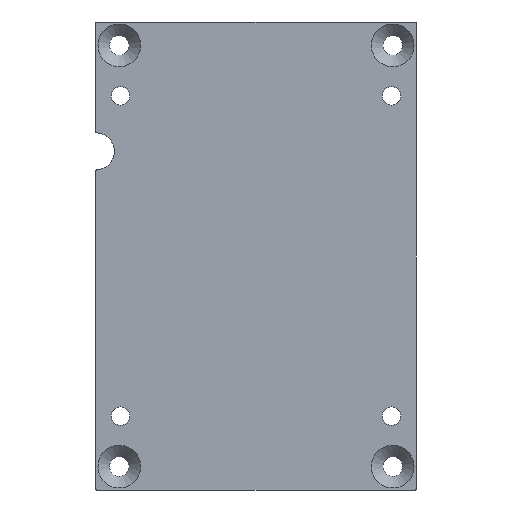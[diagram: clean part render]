
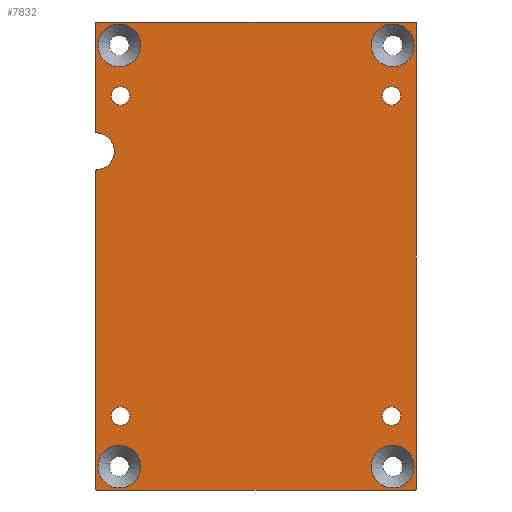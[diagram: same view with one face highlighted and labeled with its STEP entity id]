
A CAD part, front view. The second image highlights one B-rep face of the part: STEP entity #7832.
In plain terms, the highlighted planar face has unit normal (0, -1, 0).
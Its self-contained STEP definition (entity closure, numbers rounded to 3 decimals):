
#3606=PLANE('',#7523);
#3714=CIRCLE('',#7524,3.);
#3715=CIRCLE('',#7525,3.);
#3716=CIRCLE('',#7526,0.1);
#3717=CIRCLE('',#7527,0.1);
#3718=CIRCLE('',#7528,0.1);
#3719=CIRCLE('',#7529,0.1);
#3720=CIRCLE('',#7530,0.1);
#3721=CIRCLE('',#7531,0.1);
#3722=CIRCLE('',#7532,1.5);
#3723=CIRCLE('',#7533,1.5);
#3724=CIRCLE('',#7534,1.5);
#3725=CIRCLE('',#7535,1.5);
#3726=CIRCLE('',#7536,3.47);
#3727=CIRCLE('',#7537,3.47);
#3728=CIRCLE('',#7538,3.47);
#3729=CIRCLE('',#7539,3.47);
#3917=ORIENTED_EDGE('',*,*,#5299,.T.);
#3918=ORIENTED_EDGE('',*,*,#5300,.T.);
#3919=ORIENTED_EDGE('',*,*,#5301,.T.);
#3920=ORIENTED_EDGE('',*,*,#5302,.T.);
#3921=ORIENTED_EDGE('',*,*,#5303,.T.);
#3922=ORIENTED_EDGE('',*,*,#5304,.F.);
#3923=ORIENTED_EDGE('',*,*,#5305,.T.);
#3924=ORIENTED_EDGE('',*,*,#5306,.T.);
#3925=ORIENTED_EDGE('',*,*,#5307,.T.);
#3926=ORIENTED_EDGE('',*,*,#5308,.F.);
#3927=ORIENTED_EDGE('',*,*,#5309,.T.);
#3928=ORIENTED_EDGE('',*,*,#5294,.T.);
#3929=ORIENTED_EDGE('',*,*,#5310,.T.);
#3930=ORIENTED_EDGE('',*,*,#5311,.F.);
#3931=ORIENTED_EDGE('',*,*,#5312,.F.);
#3932=ORIENTED_EDGE('',*,*,#5313,.F.);
#3933=ORIENTED_EDGE('',*,*,#5314,.F.);
#3934=ORIENTED_EDGE('',*,*,#5315,.F.);
#3935=ORIENTED_EDGE('',*,*,#5316,.F.);
#3936=ORIENTED_EDGE('',*,*,#5317,.F.);
#3937=ORIENTED_EDGE('',*,*,#5318,.F.);
#4573=VECTOR('',#6086,1.);
#4578=VECTOR('',#6099,1.);
#4579=VECTOR('',#6102,1.);
#4580=VECTOR('',#6105,1.);
#4581=VECTOR('',#6108,1.);
#4782=LINE('',#6913,#4573);
#4787=LINE('',#6929,#4578);
#4788=LINE('',#6933,#4579);
#4789=LINE('',#6937,#4580);
#4790=LINE('',#6941,#4581);
#5038=VERTEX_POINT('',#6911);
#5039=VERTEX_POINT('',#6912);
#5042=VERTEX_POINT('',#6921);
#5043=VERTEX_POINT('',#6922);
#5044=VERTEX_POINT('',#6924);
#5045=VERTEX_POINT('',#6926);
#5046=VERTEX_POINT('',#6928);
#5047=VERTEX_POINT('',#6930);
#5048=VERTEX_POINT('',#6932);
#5049=VERTEX_POINT('',#6934);
#5050=VERTEX_POINT('',#6936);
#5051=VERTEX_POINT('',#6938);
#5052=VERTEX_POINT('',#6940);
#5053=VERTEX_POINT('',#6944);
#5054=VERTEX_POINT('',#6946);
#5055=VERTEX_POINT('',#6948);
#5056=VERTEX_POINT('',#6950);
#5057=VERTEX_POINT('',#6952);
#5058=VERTEX_POINT('',#6954);
#5059=VERTEX_POINT('',#6956);
#5060=VERTEX_POINT('',#6958);
#5294=EDGE_CURVE('',#5038,#5039,#4782,.T.);
#5299=EDGE_CURVE('',#5042,#5043,#3714,.T.);
#5300=EDGE_CURVE('',#5043,#5044,#3715,.T.);
#5301=EDGE_CURVE('',#5044,#5045,#3716,.T.);
#5302=EDGE_CURVE('',#5045,#5046,#4787,.T.);
#5303=EDGE_CURVE('',#5046,#5047,#3717,.T.);
#5304=EDGE_CURVE('',#5048,#5047,#4788,.T.);
#5305=EDGE_CURVE('',#5048,#5049,#3718,.T.);
#5306=EDGE_CURVE('',#5049,#5050,#4789,.T.);
#5307=EDGE_CURVE('',#5050,#5051,#3719,.T.);
#5308=EDGE_CURVE('',#5052,#5051,#4790,.T.);
#5309=EDGE_CURVE('',#5052,#5038,#3720,.T.);
#5310=EDGE_CURVE('',#5039,#5042,#3721,.T.);
#5311=EDGE_CURVE('',#5053,#5053,#3722,.T.);
#5312=EDGE_CURVE('',#5054,#5054,#3723,.T.);
#5313=EDGE_CURVE('',#5055,#5055,#3724,.T.);
#5314=EDGE_CURVE('',#5056,#5056,#3725,.T.);
#5315=EDGE_CURVE('',#5057,#5057,#3726,.T.);
#5316=EDGE_CURVE('',#5058,#5058,#3727,.T.);
#5317=EDGE_CURVE('',#5059,#5059,#3728,.T.);
#5318=EDGE_CURVE('',#5060,#5060,#3729,.T.);
#5567=EDGE_LOOP('',(#3917,#3918,#3919,#3920,#3921,#3922,#3923,#3924,#3925,
#3926,#3927,#3928,#3929));
#5568=EDGE_LOOP('',(#3930));
#5569=EDGE_LOOP('',(#3931));
#5570=EDGE_LOOP('',(#3932));
#5571=EDGE_LOOP('',(#3933));
#5572=EDGE_LOOP('',(#3934));
#5573=EDGE_LOOP('',(#3935));
#5574=EDGE_LOOP('',(#3936));
#5575=EDGE_LOOP('',(#3937));
#5754=FACE_BOUND('',#5567,.T.);
#5755=FACE_BOUND('',#5568,.T.);
#5756=FACE_BOUND('',#5569,.T.);
#5757=FACE_BOUND('',#5570,.T.);
#5758=FACE_BOUND('',#5571,.T.);
#5759=FACE_BOUND('',#5572,.T.);
#5760=FACE_BOUND('',#5573,.T.);
#5761=FACE_BOUND('',#5574,.T.);
#5762=FACE_BOUND('',#5575,.T.);
#6086=DIRECTION('',(0.,0.,-17.802));
#6091=DIRECTION('',(0.,-1.,0.));
#6092=DIRECTION('',(-1.,0.,0.));
#6093=DIRECTION('',(0.,1.,0.));
#6094=DIRECTION('',(0.,0.,-3.));
#6095=DIRECTION('',(0.,1.,0.));
#6096=DIRECTION('',(0.,0.,-3.));
#6097=DIRECTION('',(0.,-1.,0.));
#6098=DIRECTION('',(0.,0.,0.1));
#6099=DIRECTION('',(0.,0.,-51.802));
#6100=DIRECTION('',(0.,-1.,0.));
#6101=DIRECTION('',(0.,0.,0.1));
#6102=DIRECTION('',(-51.8,0.,0.));
#6103=DIRECTION('',(0.,-1.,0.));
#6104=DIRECTION('',(0.,0.,0.1));
#6105=DIRECTION('',(0.,0.,75.8));
#6106=DIRECTION('',(0.,-1.,0.));
#6107=DIRECTION('',(0.,0.,0.1));
#6108=DIRECTION('',(51.8,0.,0.));
#6109=DIRECTION('',(0.,-1.,0.));
#6110=DIRECTION('',(0.,0.,0.1));
#6111=DIRECTION('',(0.,-1.,0.));
#6112=DIRECTION('',(0.,0.,0.1));
#6113=DIRECTION('',(0.,-1.,0.));
#6114=DIRECTION('',(0.,0.,-1.5));
#6115=DIRECTION('',(0.,-1.,0.));
#6116=DIRECTION('',(0.,0.,-1.5));
#6117=DIRECTION('',(0.,-1.,0.));
#6118=DIRECTION('',(0.,0.,-1.5));
#6119=DIRECTION('',(0.,-1.,0.));
#6120=DIRECTION('',(0.,0.,-1.5));
#6121=DIRECTION('',(0.,-1.,0.));
#6122=DIRECTION('',(0.,0.,-3.47));
#6123=DIRECTION('',(0.,-1.,0.));
#6124=DIRECTION('',(0.,0.,-3.47));
#6125=DIRECTION('',(0.,-1.,0.));
#6126=DIRECTION('',(0.,0.,-3.47));
#6127=DIRECTION('',(0.,-1.,0.));
#6128=DIRECTION('',(0.,0.,-3.47));
#6911=CARTESIAN_POINT('',(251.084,43.275,128.973));
#6912=CARTESIAN_POINT('',(251.084,43.275,111.172));
#6913=CARTESIAN_POINT('',(251.084,43.275,128.973));
#6920=CARTESIAN_POINT('',(303.084,43.275,53.073));
#6921=CARTESIAN_POINT('',(251.181,43.275,111.072));
#6922=CARTESIAN_POINT('',(254.084,43.275,108.073));
#6923=CARTESIAN_POINT('',(251.084,43.275,108.073));
#6924=CARTESIAN_POINT('',(251.181,43.275,105.075));
#6925=CARTESIAN_POINT('',(251.084,43.275,108.073));
#6926=CARTESIAN_POINT('',(251.084,43.275,104.975));
#6927=CARTESIAN_POINT('',(251.184,43.275,104.975));
#6928=CARTESIAN_POINT('',(251.084,43.275,53.173));
#6929=CARTESIAN_POINT('',(251.084,43.275,104.975));
#6930=CARTESIAN_POINT('',(251.184,43.275,53.073));
#6931=CARTESIAN_POINT('',(251.184,43.275,53.173));
#6932=CARTESIAN_POINT('',(302.984,43.275,53.073));
#6933=CARTESIAN_POINT('',(302.984,43.275,53.073));
#6934=CARTESIAN_POINT('',(303.084,43.275,53.173));
#6935=CARTESIAN_POINT('',(302.984,43.275,53.173));
#6936=CARTESIAN_POINT('',(303.084,43.275,128.973));
#6937=CARTESIAN_POINT('',(303.084,43.275,53.173));
#6938=CARTESIAN_POINT('',(302.984,43.275,129.073));
#6939=CARTESIAN_POINT('',(302.984,43.275,128.973));
#6940=CARTESIAN_POINT('',(251.184,43.275,129.073));
#6941=CARTESIAN_POINT('',(251.184,43.275,129.073));
#6942=CARTESIAN_POINT('',(251.184,43.275,128.973));
#6943=CARTESIAN_POINT('',(251.184,43.275,111.172));
#6944=CARTESIAN_POINT('',(255.084,43.275,115.573));
#6945=CARTESIAN_POINT('',(255.084,43.275,117.073));
#6946=CARTESIAN_POINT('',(255.084,43.275,63.573));
#6947=CARTESIAN_POINT('',(255.084,43.275,65.073));
#6948=CARTESIAN_POINT('',(299.084,43.275,115.573));
#6949=CARTESIAN_POINT('',(299.084,43.275,117.073));
#6950=CARTESIAN_POINT('',(299.084,43.275,63.573));
#6951=CARTESIAN_POINT('',(299.084,43.275,65.073));
#6952=CARTESIAN_POINT('',(299.284,43.275,53.403));
#6953=CARTESIAN_POINT('',(299.284,43.275,56.873));
#6954=CARTESIAN_POINT('',(299.284,43.275,121.803));
#6955=CARTESIAN_POINT('',(299.284,43.275,125.273));
#6956=CARTESIAN_POINT('',(254.884,43.275,53.403));
#6957=CARTESIAN_POINT('',(254.884,43.275,56.873));
#6958=CARTESIAN_POINT('',(254.884,43.275,121.803));
#6959=CARTESIAN_POINT('',(254.884,43.275,125.273));
#7523=AXIS2_PLACEMENT_3D('',#6920,#6091,#6092);
#7524=AXIS2_PLACEMENT_3D('',#6923,#6093,#6094);
#7525=AXIS2_PLACEMENT_3D('',#6925,#6095,#6096);
#7526=AXIS2_PLACEMENT_3D('',#6927,#6097,#6098);
#7527=AXIS2_PLACEMENT_3D('',#6931,#6100,#6101);
#7528=AXIS2_PLACEMENT_3D('',#6935,#6103,#6104);
#7529=AXIS2_PLACEMENT_3D('',#6939,#6106,#6107);
#7530=AXIS2_PLACEMENT_3D('',#6942,#6109,#6110);
#7531=AXIS2_PLACEMENT_3D('',#6943,#6111,#6112);
#7532=AXIS2_PLACEMENT_3D('',#6945,#6113,#6114);
#7533=AXIS2_PLACEMENT_3D('',#6947,#6115,#6116);
#7534=AXIS2_PLACEMENT_3D('',#6949,#6117,#6118);
#7535=AXIS2_PLACEMENT_3D('',#6951,#6119,#6120);
#7536=AXIS2_PLACEMENT_3D('',#6953,#6121,#6122);
#7537=AXIS2_PLACEMENT_3D('',#6955,#6123,#6124);
#7538=AXIS2_PLACEMENT_3D('',#6957,#6125,#6126);
#7539=AXIS2_PLACEMENT_3D('',#6959,#6127,#6128);
#7832=ADVANCED_FACE('',(#5754,#5755,#5756,#5757,#5758,#5759,#5760,#5761,
#5762),#3606,.T.);
